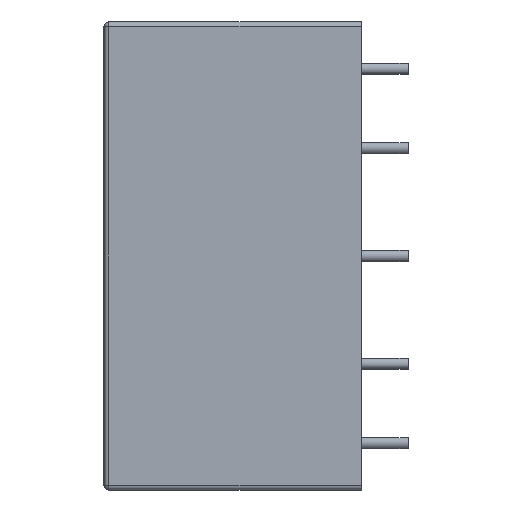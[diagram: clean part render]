
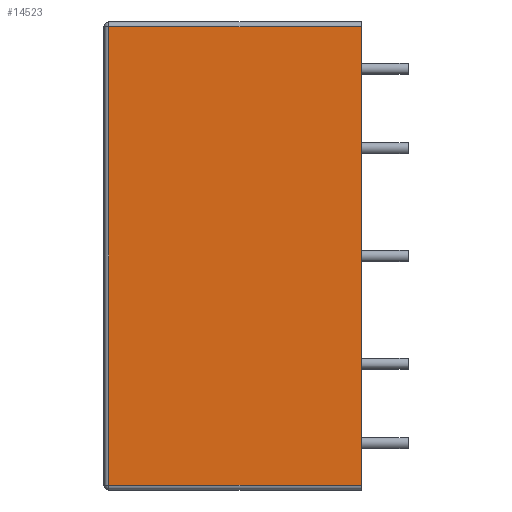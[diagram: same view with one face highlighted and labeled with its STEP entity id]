
A CAD part, left-side view. The second image highlights one B-rep face of the part: STEP entity #14523.
In plain terms, the highlighted planar face has unit normal (-1, 0, 0).
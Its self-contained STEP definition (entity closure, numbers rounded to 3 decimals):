
#29 = DIRECTION ( 'NONE',  ( 0., 0., -1. ) ) ;
#393 = VECTOR ( 'NONE', #10810, 1000. ) ;
#589 = CARTESIAN_POINT ( 'NONE',  ( -36., 27.5, -24.5 ) ) ;
#1644 = CARTESIAN_POINT ( 'NONE',  ( -36., 0., 25. ) ) ;
#4112 = VERTEX_POINT ( 'NONE', #27122 ) ;
#6756 = DIRECTION ( 'NONE',  ( 0., 0., -1. ) ) ;
#6812 = EDGE_CURVE ( 'NONE', #22786, #4112, #15768, .T. ) ;
#8535 = DIRECTION ( 'NONE',  ( 0., 1., 0. ) ) ;
#9654 = ORIENTED_EDGE ( 'NONE', *, *, #20638, .T. ) ;
#10074 = CARTESIAN_POINT ( 'NONE',  ( -36., 27.5, 25. ) ) ;
#10760 = EDGE_LOOP ( 'NONE', ( #9654, #29193, #26323, #13057 ) ) ;
#10810 = DIRECTION ( 'NONE',  ( 0., -1., 0. ) ) ;
#11674 = AXIS2_PLACEMENT_3D ( 'NONE', #10074, #22913, #29 ) ;
#11791 = LINE ( 'NONE', #14259, #32840 ) ;
#13057 = ORIENTED_EDGE ( 'NONE', *, *, #13895, .T. ) ;
#13895 = EDGE_CURVE ( 'NONE', #22849, #24875, #18524, .T. ) ;
#14259 = CARTESIAN_POINT ( 'NONE',  ( -36., 27., 25. ) ) ;
#14523 = ADVANCED_FACE ( 'NONE', ( #17716 ), #14879, .F. ) ;
#14642 = DIRECTION ( 'NONE',  ( 0., 0., 1. ) ) ;
#14879 = PLANE ( 'NONE',  #11674 ) ;
#15768 = LINE ( 'NONE', #589, #393 ) ;
#16342 = CARTESIAN_POINT ( 'NONE',  ( -36., 27.5, 24.5 ) ) ;
#17095 = CARTESIAN_POINT ( 'NONE',  ( -36., 27., 24.5 ) ) ;
#17716 = FACE_OUTER_BOUND ( 'NONE', #10760, .T. ) ;
#18524 = LINE ( 'NONE', #16342, #29250 ) ;
#20013 = CARTESIAN_POINT ( 'NONE',  ( -36., 0., 24.5 ) ) ;
#20638 = EDGE_CURVE ( 'NONE', #24875, #22786, #11791, .T. ) ;
#21831 = LINE ( 'NONE', #1644, #26077 ) ;
#22786 = VERTEX_POINT ( 'NONE', #32732 ) ;
#22849 = VERTEX_POINT ( 'NONE', #20013 ) ;
#22913 = DIRECTION ( 'NONE',  ( 1., 0., 0. ) ) ;
#24875 = VERTEX_POINT ( 'NONE', #17095 ) ;
#26077 = VECTOR ( 'NONE', #14642, 1000. ) ;
#26323 = ORIENTED_EDGE ( 'NONE', *, *, #32799, .T. ) ;
#27122 = CARTESIAN_POINT ( 'NONE',  ( -36., 0., -24.5 ) ) ;
#29193 = ORIENTED_EDGE ( 'NONE', *, *, #6812, .T. ) ;
#29250 = VECTOR ( 'NONE', #8535, 1000. ) ;
#32732 = CARTESIAN_POINT ( 'NONE',  ( -36., 27., -24.5 ) ) ;
#32799 = EDGE_CURVE ( 'NONE', #4112, #22849, #21831, .T. ) ;
#32840 = VECTOR ( 'NONE', #6756, 1000. ) ;
